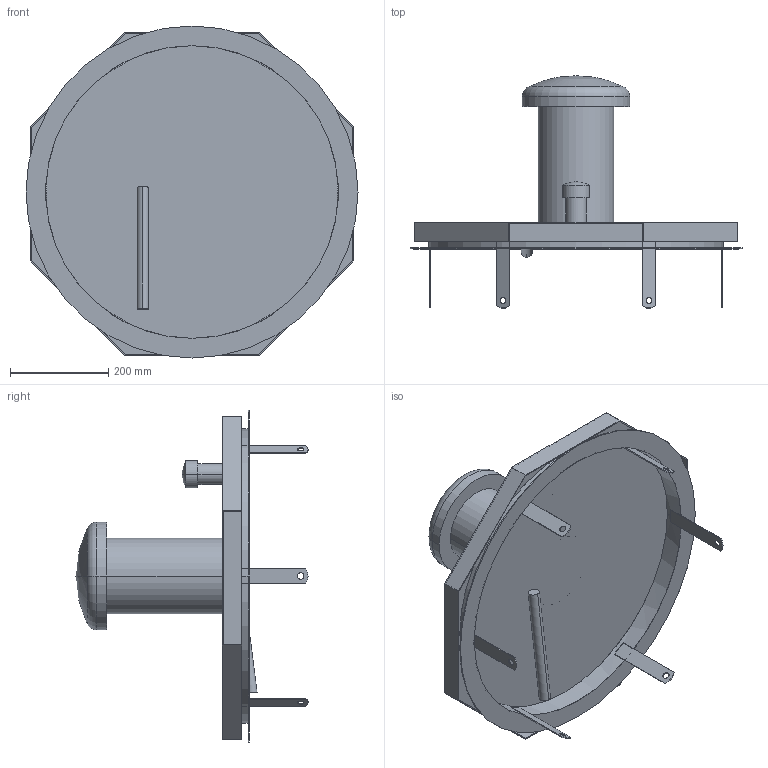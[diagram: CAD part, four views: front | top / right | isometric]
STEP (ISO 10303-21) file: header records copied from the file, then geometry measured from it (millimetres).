
FILE_DESCRIPTION((''),'2;1');
FILE_NAME('017_000107','2017-08-08T',('gm'),('HUBER SE'),'PRO/ENGINEER BY PARAMETRIC TECHNOLOGY CORPORATION, 2015280','PRO/ENGINEER BY PARAMETRIC TECHNOLOGY CORPORATION, 2015280','');
FILE_SCHEMA(('CONFIG_CONTROL_DESIGN'));
Length unit declared in the file: millimetre
Products named in the file (1): 017_000107
Bounding box: 675 x 472 x 675 mm (x, y, z)
Volume: 7654047.5 mm3; surface area: 1445767.6 mm2
Topology: 3 solids, 3 shells, 96 faces, 252 edges, 164 vertices
Faces by surface type: plane 56, cylinder 34, sphere 4, torus 2
Entity records: 3010 total; most frequent: DIRECTION 528, CARTESIAN_POINT 508, ORIENTED_EDGE 496, EDGE_CURVE 248, AXIS2_PLACEMENT_3D 184, VERTEX_POINT 164, VECTOR 160, LINE 160
